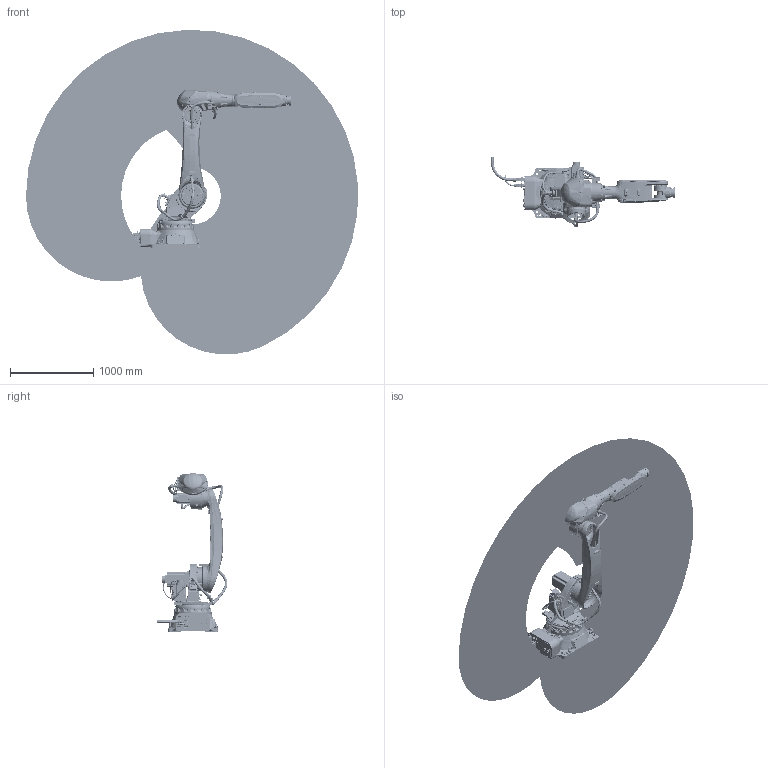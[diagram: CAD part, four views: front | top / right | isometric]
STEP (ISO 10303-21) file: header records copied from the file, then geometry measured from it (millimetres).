
FILE_DESCRIPTION(/* description */ (''),/* implementation_level */ '2;1');
FILE_NAME(/* name */ 'NB80s-8022 简化模型（20230607）.stp',/* time_stamp */ '2023-06-07T18:40:54+08:00',/* author */ (''),/* organization */ (''),/* preprocessor_version */ 'ST-DEVELOPER v16',/* originating_system */ 'SIEMENS PLM Software NX 10.0',/* authorisation */ '');
FILE_SCHEMA (('CONFIG_CONTROL_DESIGN'));
Products named in the file (12): NB220底座编码器线; NB220底座动力线; NB80-Line-A; NB80-3Dwork; NB80-shuchu-A; NB80-shouwan-A; NB80-xiaobihou-A; NB80-xiaobiqian-Alogo; NB80-yao-A; NB80-dabi-A; NB220-base-A_MODEL; NB80s-8022 简化模型（20230607）
Assembly tree (11 placements, depth 3):
  NB80s-8022 简化模型（20230607）
    NB80-dabi-A
    NB220-base-A_MODEL
      NB220底座动力线
      NB220底座编码器线
    NB80-yao-A
    NB80-xiaobiqian-Alogo
    NB80-xiaobihou-A
    NB80-shouwan-A
    NB80-shuchu-A
    NB80-3Dwork
    NB80-Line-A
Bounding box: 3996.3 x 854.55 x 3904.48 mm (x, y, z)
Volume: 195194931.4 mm3; surface area: 18077299.6 mm2
Topology: 33 solids, 146 shells, 18829 faces, 50286 edges, 32301 vertices
Faces by surface type: plane 7474, cylinder 5275, bspline 1963, cone 1715, extrusion 1262, torus 840, sphere 296, revolution 4
Full cylindrical faces by diameter (mm): 2.5 x4, 2.95 x2, 3 x2, 3.3 x8, 4.8 x2, 4.9 x2, 5 x46, 5.5 x9, 5.82 x8, 6 x8, 6.6 x2, 6.8 x17, 7 x54, 8 x10, 8.5 x56, 8.613 x3, 9.8 x2, 10 x64, 10.3 x6, 10.4 x1, 11.05 x10, 12 x1, 13 x29, 14 x11, 15 x2, 16 x24, 17.5 x4, 18 x58, 19 x16, 19.8 x4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
Entity records: 834950 total; most frequent: CARTESIAN_POINT 401100, ORIENTED_EDGE 97025, DIRECTION 77668, EDGE_CURVE 48516, VERTEX_POINT 31841, AXIS2_PLACEMENT_3D 28566, EDGE_LOOP 21166, VECTOR 20532
